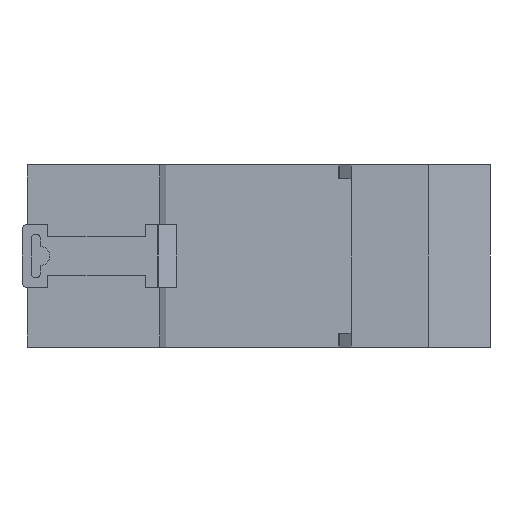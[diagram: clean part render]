
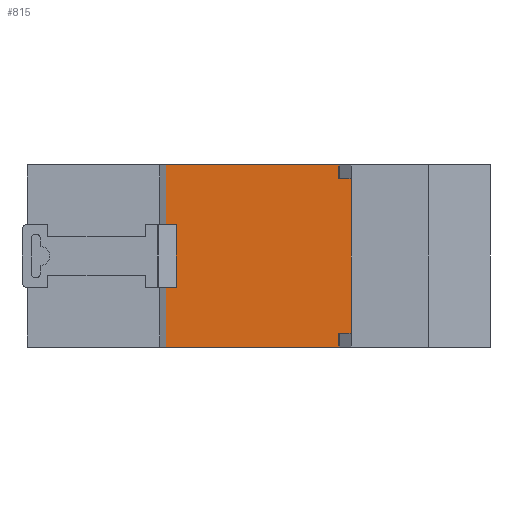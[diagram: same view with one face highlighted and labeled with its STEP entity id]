
A CAD part, left-side view. The second image highlights one B-rep face of the part: STEP entity #815.
In plain terms, the highlighted planar face has unit normal (-1, 0, 0).
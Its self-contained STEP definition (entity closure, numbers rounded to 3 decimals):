
#217 = EDGE_CURVE ( 'NONE', #8811, #7714, #6386, .T. ) ;
#664 = VERTEX_POINT ( 'NONE', #1772 ) ;
#746 = CARTESIAN_POINT ( 'NONE',  ( -60., -40.25, 35.4 ) ) ;
#815 = ADVANCED_FACE ( 'NONE', ( #3341 ), #12990, .F. ) ;
#981 = CARTESIAN_POINT ( 'NONE',  ( -60., -4.25, 35.4 ) ) ;
#1640 = CARTESIAN_POINT ( 'NONE',  ( -60., -4.25, 35.4 ) ) ;
#1670 = LINE ( 'NONE', #1640, #6747 ) ;
#1706 = ORIENTED_EDGE ( 'NONE', *, *, #7498, .F. ) ;
#1772 = CARTESIAN_POINT ( 'NONE',  ( -60., -4.25, 0. ) ) ;
#1804 = EDGE_CURVE ( 'NONE', #664, #7714, #7544, .T. ) ;
#2873 = CARTESIAN_POINT ( 'NONE',  ( -60., -40.25, 35.4 ) ) ;
#3000 = CARTESIAN_POINT ( 'NONE',  ( -60., -4.25, 35.4 ) ) ;
#3087 = ORIENTED_EDGE ( 'NONE', *, *, #6056, .T. ) ;
#3341 = FACE_OUTER_BOUND ( 'NONE', #8388, .T. ) ;
#4034 = VECTOR ( 'NONE', #9952, 1000. ) ;
#4085 = CARTESIAN_POINT ( 'NONE',  ( -60., -40.25, 0. ) ) ;
#4487 = DIRECTION ( 'NONE',  ( 0., -1., 0. ) ) ;
#4844 = DIRECTION ( 'NONE',  ( 0., 0., -1. ) ) ;
#4919 = CARTESIAN_POINT ( 'NONE',  ( -60., -4.25, 35.4 ) ) ;
#5692 = VERTEX_POINT ( 'NONE', #981 ) ;
#6056 = EDGE_CURVE ( 'NONE', #5692, #664, #11869, .T. ) ;
#6386 = LINE ( 'NONE', #746, #11312 ) ;
#6747 = VECTOR ( 'NONE', #4487, 1000. ) ;
#6966 = DIRECTION ( 'NONE',  ( 0., 0., -1. ) ) ;
#7231 = VECTOR ( 'NONE', #6966, 1000. ) ;
#7498 = EDGE_CURVE ( 'NONE', #5692, #8811, #1670, .T. ) ;
#7544 = LINE ( 'NONE', #11733, #4034 ) ;
#7714 = VERTEX_POINT ( 'NONE', #4085 ) ;
#7866 = AXIS2_PLACEMENT_3D ( 'NONE', #4919, #9106, #8090 ) ;
#8090 = DIRECTION ( 'NONE',  ( 0., 1., 0. ) ) ;
#8388 = EDGE_LOOP ( 'NONE', ( #12801, #9838, #1706, #3087 ) ) ;
#8811 = VERTEX_POINT ( 'NONE', #2873 ) ;
#9106 = DIRECTION ( 'NONE',  ( 1., 0., 0. ) ) ;
#9838 = ORIENTED_EDGE ( 'NONE', *, *, #217, .F. ) ;
#9952 = DIRECTION ( 'NONE',  ( 0., -1., 0. ) ) ;
#11312 = VECTOR ( 'NONE', #4844, 1000. ) ;
#11733 = CARTESIAN_POINT ( 'NONE',  ( -60., -4.25, 0. ) ) ;
#11869 = LINE ( 'NONE', #3000, #7231 ) ;
#12801 = ORIENTED_EDGE ( 'NONE', *, *, #1804, .T. ) ;
#12990 = PLANE ( 'NONE',  #7866 ) ;
